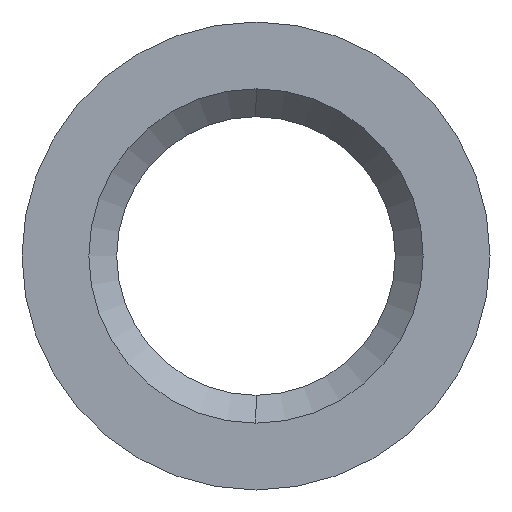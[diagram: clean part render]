
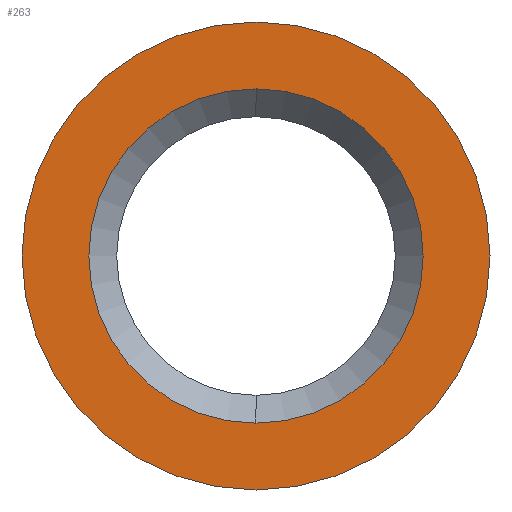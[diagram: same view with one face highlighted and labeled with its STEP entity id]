
A CAD part, left-side view. The second image highlights one B-rep face of the part: STEP entity #263.
In plain terms, the highlighted planar face has unit normal (-1, 0, 0).
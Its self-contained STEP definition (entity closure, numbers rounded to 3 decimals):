
#23 = EDGE_CURVE ( 'NONE', #870, #734, #488, .T. ) ;
#109 = CARTESIAN_POINT ( 'NONE',  ( -5.3, 0., 1.5 ) ) ;
#143 = EDGE_CURVE ( 'NONE', #201, #746, #331, .T. ) ;
#155 = EDGE_CURVE ( 'NONE', #734, #870, #635, .T. ) ;
#172 = DIRECTION ( 'NONE',  ( 1., 0., 0. ) ) ;
#185 = DIRECTION ( 'NONE',  ( 0., 0., -1. ) ) ;
#201 = VERTEX_POINT ( 'NONE', #753 ) ;
#212 = FACE_OUTER_BOUND ( 'NONE', #504, .T. ) ;
#223 = AXIS2_PLACEMENT_3D ( 'NONE', #477, #678, #261 ) ;
#236 = ORIENTED_EDGE ( 'NONE', *, *, #23, .F. ) ;
#242 = AXIS2_PLACEMENT_3D ( 'NONE', #455, #304, #513 ) ;
#261 = DIRECTION ( 'NONE',  ( 0., 0., 1. ) ) ;
#263 = ADVANCED_FACE ( 'NONE', ( #292, #212 ), #699, .T. ) ;
#264 = CARTESIAN_POINT ( 'NONE',  ( -5.3, 0., 2.1 ) ) ;
#272 = AXIS2_PLACEMENT_3D ( 'NONE', #339, #611, #825 ) ;
#292 = FACE_BOUND ( 'NONE', #869, .T. ) ;
#303 = AXIS2_PLACEMENT_3D ( 'NONE', #913, #555, #836 ) ;
#304 = DIRECTION ( 'NONE',  ( 1., 0., 0. ) ) ;
#331 = CIRCLE ( 'NONE', #223, 1.5 ) ;
#336 = CARTESIAN_POINT ( 'NONE',  ( -5.3, 0., 0. ) ) ;
#339 = CARTESIAN_POINT ( 'NONE',  ( -5.3, 0., 0. ) ) ;
#355 = CIRCLE ( 'NONE', #272, 1.5 ) ;
#455 = CARTESIAN_POINT ( 'NONE',  ( -5.3, 0., 0. ) ) ;
#477 = CARTESIAN_POINT ( 'NONE',  ( -5.3, 0., 0. ) ) ;
#488 = CIRCLE ( 'NONE', #242, 2.1 ) ;
#504 = EDGE_LOOP ( 'NONE', ( #236, #911 ) ) ;
#513 = DIRECTION ( 'NONE',  ( 0., 0., -1. ) ) ;
#555 = DIRECTION ( 'NONE',  ( -1., 0., 0. ) ) ;
#557 = ORIENTED_EDGE ( 'NONE', *, *, #143, .T. ) ;
#609 = AXIS2_PLACEMENT_3D ( 'NONE', #336, #172, #185 ) ;
#611 = DIRECTION ( 'NONE',  ( 1., 0., 0. ) ) ;
#635 = CIRCLE ( 'NONE', #609, 2.1 ) ;
#678 = DIRECTION ( 'NONE',  ( 1., 0., 0. ) ) ;
#699 = PLANE ( 'NONE',  #303 ) ;
#709 = EDGE_CURVE ( 'NONE', #746, #201, #355, .T. ) ;
#734 = VERTEX_POINT ( 'NONE', #264 ) ;
#746 = VERTEX_POINT ( 'NONE', #109 ) ;
#749 = ORIENTED_EDGE ( 'NONE', *, *, #709, .T. ) ;
#753 = CARTESIAN_POINT ( 'NONE',  ( -5.3, 0., -1.5 ) ) ;
#789 = CARTESIAN_POINT ( 'NONE',  ( -5.3, 0., -2.1 ) ) ;
#825 = DIRECTION ( 'NONE',  ( 0., 0., 1. ) ) ;
#836 = DIRECTION ( 'NONE',  ( 0., 0., 1. ) ) ;
#869 = EDGE_LOOP ( 'NONE', ( #749, #557 ) ) ;
#870 = VERTEX_POINT ( 'NONE', #789 ) ;
#911 = ORIENTED_EDGE ( 'NONE', *, *, #155, .F. ) ;
#913 = CARTESIAN_POINT ( 'NONE',  ( -5.3, 2.1, 0. ) ) ;
